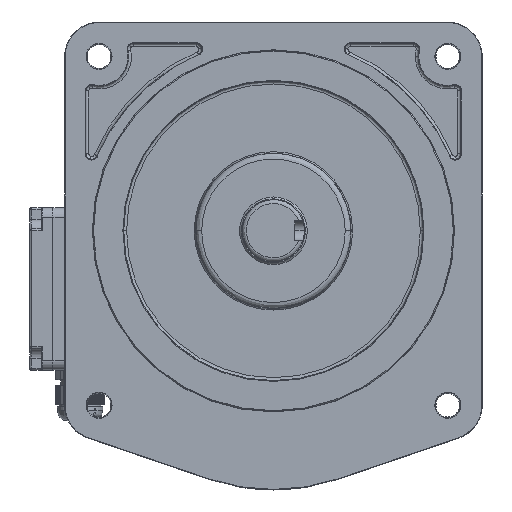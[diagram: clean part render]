
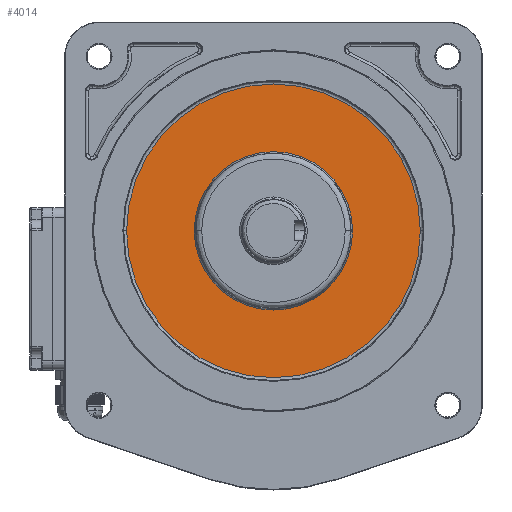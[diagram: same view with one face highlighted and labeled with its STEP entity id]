
A CAD part, top view. The second image highlights one B-rep face of the part: STEP entity #4014.
In plain terms, the highlighted planar face has unit normal (0, 0, 1).
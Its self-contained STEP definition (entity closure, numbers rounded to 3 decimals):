
#4014 = ADVANCED_FACE ( 'NONE', ( #42888, #42894 ), #168314, .T. ) ;
#8291 = VERTEX_POINT ( 'NONE', #172821 ) ;
#8301 = VERTEX_POINT ( 'NONE', #172831 ) ;
#8346 = VERTEX_POINT ( 'NONE', #172876 ) ;
#8347 = VERTEX_POINT ( 'NONE', #172877 ) ;
#23222 = AXIS2_PLACEMENT_3D ( 'NONE', #31347, #31355, #31357 ) ;
#31347 = CARTESIAN_POINT ( 'NONE',  ( 0., 30., 114. ) ) ;
#31355 = DIRECTION ( 'NONE',  ( 0., 0., 1. ) ) ;
#31357 = DIRECTION ( 'NONE',  ( 1., 0., 0. ) ) ;
#38668 = EDGE_CURVE ( 'NONE', #8291, #8301, #156712, .T. ) ;
#38834 = EDGE_CURVE ( 'NONE', #8301, #8291, #156749, .T. ) ;
#38836 = EDGE_CURVE ( 'NONE', #8346, #8347, #156750, .T. ) ;
#42888 = FACE_BOUND ( 'NONE', #61230, .T. ) ;
#42894 = FACE_OUTER_BOUND ( 'NONE', #61229, .T. ) ;
#42896 = AXIS2_PLACEMENT_3D ( 'NONE', #168315, #168316, #168317 ) ;
#50622 = ORIENTED_EDGE ( 'NONE', *, *, #38668, .F. ) ;
#50623 = ORIENTED_EDGE ( 'NONE', *, *, #38834, .F. ) ;
#50624 = ORIENTED_EDGE ( 'NONE', *, *, #38836, .T. ) ;
#50626 = ORIENTED_EDGE ( 'NONE', *, *, #134945, .T. ) ;
#57089 = CARTESIAN_POINT ( 'NONE',  ( 0., 30., 114. ) ) ;
#57097 = DIRECTION ( 'NONE',  ( 0., 0., 1. ) ) ;
#57099 = DIRECTION ( 'NONE',  ( -1., 0., 0. ) ) ;
#57758 = CARTESIAN_POINT ( 'NONE',  ( 0., 30., 114. ) ) ;
#57760 = DIRECTION ( 'NONE',  ( 0., 0., 1. ) ) ;
#57762 = DIRECTION ( 'NONE',  ( -1., 0., 0. ) ) ;
#57764 = CARTESIAN_POINT ( 'NONE',  ( 0., 30., 114. ) ) ;
#57766 = DIRECTION ( 'NONE',  ( 0., 0., 1. ) ) ;
#57768 = DIRECTION ( 'NONE',  ( 1., 0., 0. ) ) ;
#61229 = EDGE_LOOP ( 'NONE', ( #50624, #50626 ) ) ;
#61230 = EDGE_LOOP ( 'NONE', ( #50622, #50623 ) ) ;
#77471 = CIRCLE ( 'NONE', #23222, 75.929 ) ;
#134945 = EDGE_CURVE ( 'NONE', #8347, #8346, #77471, .T. ) ;
#156712 = CIRCLE ( 'NONE', #163746, 25.464 ) ;
#156749 = CIRCLE ( 'NONE', #163789, 25.464 ) ;
#156750 = CIRCLE ( 'NONE', #163802, 75.929 ) ;
#163746 = AXIS2_PLACEMENT_3D ( 'NONE', #57089, #57097, #57099 ) ;
#163789 = AXIS2_PLACEMENT_3D ( 'NONE', #57758, #57760, #57762 ) ;
#163802 = AXIS2_PLACEMENT_3D ( 'NONE', #57764, #57766, #57768 ) ;
#168314 = PLANE ( 'NONE',  #42896 ) ;
#168315 = CARTESIAN_POINT ( 'NONE',  ( 90., 120., 114. ) ) ;
#168316 = DIRECTION ( 'NONE',  ( 0., 0., 1. ) ) ;
#168317 = DIRECTION ( 'NONE',  ( 1., 0., 0. ) ) ;
#172821 = CARTESIAN_POINT ( 'NONE',  ( -25.464, 30., 114. ) ) ;
#172831 = CARTESIAN_POINT ( 'NONE',  ( 25.464, 30., 114. ) ) ;
#172876 = CARTESIAN_POINT ( 'NONE',  ( 75.929, 30., 114. ) ) ;
#172877 = CARTESIAN_POINT ( 'NONE',  ( -75.929, 30., 114. ) ) ;
